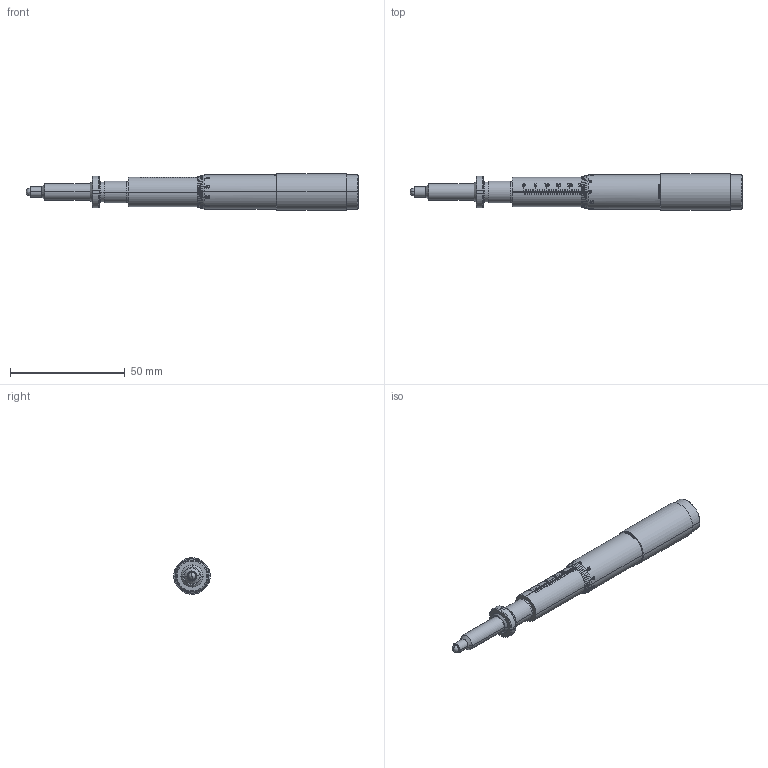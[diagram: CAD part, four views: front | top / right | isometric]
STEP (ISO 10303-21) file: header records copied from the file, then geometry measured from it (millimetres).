
FILE_DESCRIPTION((''),'2;1');
FILE_NAME('SM-50','2022-12-14T08:48:02',('Administrator'),(''),'CREO PARAMETRIC BY PTC INC, 2019292','CREO PARAMETRIC BY PTC INC, 2019292','');
FILE_SCHEMA(('AUTOMOTIVE_DESIGN { 1 0 10303 214 1 1 1 1 }'));
Products named in the file (1): SM-50
Bounding box: 144.78 x 15.87 x 15.87 mm (x, y, z)
Volume: 15844.8 mm3; surface area: 10777.5 mm2
Topology: 1 solids, 1 shells, 1617 faces, 4115 edges, 2737 vertices
Faces by surface type: plane 901, bspline 471, cylinder 209, cone 26, extrusion 8, sphere 2
Entity records: 78474 total; most frequent: CARTESIAN_POINT 40921, ORIENTED_EDGE 8222, DIRECTION 6115, EDGE_CURVE 4111, VERTEX_POINT 2737, VECTOR 2271, LINE 2263, AXIS2_PLACEMENT_3D 1922
